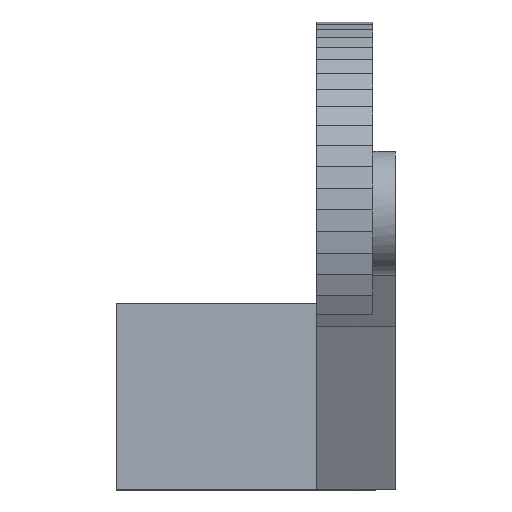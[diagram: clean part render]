
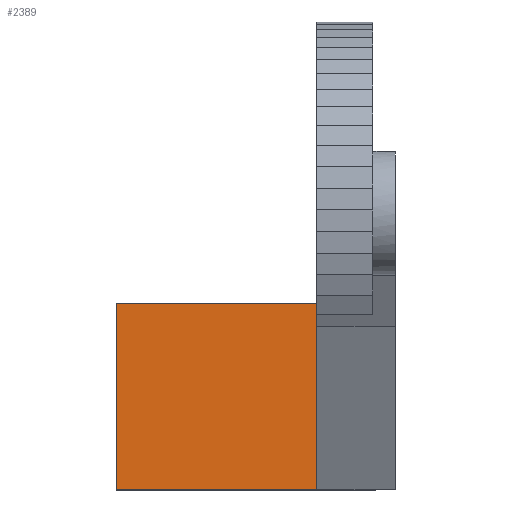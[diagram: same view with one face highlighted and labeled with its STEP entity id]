
A CAD part, top view. The second image highlights one B-rep face of the part: STEP entity #2389.
In plain terms, the highlighted planar face has unit normal (0, 0, 1).
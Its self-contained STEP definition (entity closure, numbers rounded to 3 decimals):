
#104 = PLANE('',#105);
#105 = AXIS2_PLACEMENT_3D('',#106,#107,#108);
#106 = CARTESIAN_POINT('',(6.5,0.,0.));
#107 = DIRECTION('',(1.,0.,0.));
#108 = DIRECTION('',(-0.,0.,1.));
#318 = PLANE('',#319);
#319 = AXIS2_PLACEMENT_3D('',#320,#321,#322);
#320 = CARTESIAN_POINT('',(6.5,-49.,-34.));
#321 = DIRECTION('',(0.,-1.,0.));
#322 = DIRECTION('',(0.,0.,1.));
#543 = VERTEX_POINT('',#544);
#544 = CARTESIAN_POINT('',(6.5,-49.,-30.));
#565 = EDGE_CURVE('',#566,#543,#568,.T.);
#566 = VERTEX_POINT('',#567);
#567 = CARTESIAN_POINT('',(6.5,-16.,-30.));
#568 = SURFACE_CURVE('',#569,(#573,#579),.PCURVE_S1.);
#569 = LINE('',#570,#571);
#570 = CARTESIAN_POINT('',(6.5,-24.5,-30.));
#571 = VECTOR('',#572,1.);
#572 = DIRECTION('',(0.,-1.,0.));
#573 = PCURVE('',#104,#574);
#574 = DEFINITIONAL_REPRESENTATION('',(#575),#578);
#575 = B_SPLINE_CURVE_WITH_KNOTS('',1,(#576,#577),.UNSPECIFIED.,.F.,.F.,
  (2,2),(-8.5,24.5),.PIECEWISE_BEZIER_KNOTS.);
#576 = CARTESIAN_POINT('',(-30.,16.));
#577 = CARTESIAN_POINT('',(-30.,49.));
#578 = ( GEOMETRIC_REPRESENTATION_CONTEXT(2) 
PARAMETRIC_REPRESENTATION_CONTEXT() REPRESENTATION_CONTEXT('2D SPACE',''
  ) );
#579 = PCURVE('',#580,#585);
#580 = PLANE('',#581);
#581 = AXIS2_PLACEMENT_3D('',#582,#583,#584);
#582 = CARTESIAN_POINT('',(-29.,-49.,-30.));
#583 = DIRECTION('',(0.,0.,1.));
#584 = DIRECTION('',(1.,0.,0.));
#585 = DEFINITIONAL_REPRESENTATION('',(#586),#589);
#586 = B_SPLINE_CURVE_WITH_KNOTS('',1,(#587,#588),.UNSPECIFIED.,.F.,.F.,
  (2,2),(-8.5,24.5),.PIECEWISE_BEZIER_KNOTS.);
#587 = CARTESIAN_POINT('',(35.5,33.));
#588 = CARTESIAN_POINT('',(35.5,0.));
#589 = ( GEOMETRIC_REPRESENTATION_CONTEXT(2) 
PARAMETRIC_REPRESENTATION_CONTEXT() REPRESENTATION_CONTEXT('2D SPACE',''
  ) );
#606 = PLANE('',#607);
#607 = AXIS2_PLACEMENT_3D('',#608,#609,#610);
#608 = CARTESIAN_POINT('',(-29.,-16.,-58.));
#609 = DIRECTION('',(0.,1.,0.));
#610 = DIRECTION('',(0.,0.,1.));
#2071 = EDGE_CURVE('',#2072,#543,#2074,.T.);
#2072 = VERTEX_POINT('',#2073);
#2073 = CARTESIAN_POINT('',(-29.,-49.,-30.));
#2074 = SURFACE_CURVE('',#2075,(#2079,#2086),.PCURVE_S1.);
#2075 = LINE('',#2076,#2077);
#2076 = CARTESIAN_POINT('',(-29.,-49.,-30.));
#2077 = VECTOR('',#2078,1.);
#2078 = DIRECTION('',(1.,0.,0.));
#2079 = PCURVE('',#318,#2080);
#2080 = DEFINITIONAL_REPRESENTATION('',(#2081),#2085);
#2081 = LINE('',#2082,#2083);
#2082 = CARTESIAN_POINT('',(4.,35.5));
#2083 = VECTOR('',#2084,1.);
#2084 = DIRECTION('',(0.,-1.));
#2085 = ( GEOMETRIC_REPRESENTATION_CONTEXT(2) 
PARAMETRIC_REPRESENTATION_CONTEXT() REPRESENTATION_CONTEXT('2D SPACE',''
  ) );
#2086 = PCURVE('',#580,#2087);
#2087 = DEFINITIONAL_REPRESENTATION('',(#2088),#2092);
#2088 = LINE('',#2089,#2090);
#2089 = CARTESIAN_POINT('',(0.,0.));
#2090 = VECTOR('',#2091,1.);
#2091 = DIRECTION('',(1.,0.));
#2092 = ( GEOMETRIC_REPRESENTATION_CONTEXT(2) 
PARAMETRIC_REPRESENTATION_CONTEXT() REPRESENTATION_CONTEXT('2D SPACE',''
  ) );
#2110 = PLANE('',#2111);
#2111 = AXIS2_PLACEMENT_3D('',#2112,#2113,#2114);
#2112 = CARTESIAN_POINT('',(-29.,-49.,-58.));
#2113 = DIRECTION('',(1.,0.,0.));
#2114 = DIRECTION('',(0.,0.,1.));
#2389 = ADVANCED_FACE('',(#2390),#580,.T.);
#2390 = FACE_BOUND('',#2391,.T.);
#2391 = EDGE_LOOP('',(#2392,#2415,#2436,#2437));
#2392 = ORIENTED_EDGE('',*,*,#2393,.F.);
#2393 = EDGE_CURVE('',#2394,#566,#2396,.T.);
#2394 = VERTEX_POINT('',#2395);
#2395 = CARTESIAN_POINT('',(-29.,-16.,-30.));
#2396 = SURFACE_CURVE('',#2397,(#2401,#2408),.PCURVE_S1.);
#2397 = LINE('',#2398,#2399);
#2398 = CARTESIAN_POINT('',(-29.,-16.,-30.));
#2399 = VECTOR('',#2400,1.);
#2400 = DIRECTION('',(1.,0.,0.));
#2401 = PCURVE('',#580,#2402);
#2402 = DEFINITIONAL_REPRESENTATION('',(#2403),#2407);
#2403 = LINE('',#2404,#2405);
#2404 = CARTESIAN_POINT('',(0.,33.));
#2405 = VECTOR('',#2406,1.);
#2406 = DIRECTION('',(1.,0.));
#2407 = ( GEOMETRIC_REPRESENTATION_CONTEXT(2) 
PARAMETRIC_REPRESENTATION_CONTEXT() REPRESENTATION_CONTEXT('2D SPACE',''
  ) );
#2408 = PCURVE('',#606,#2409);
#2409 = DEFINITIONAL_REPRESENTATION('',(#2410),#2414);
#2410 = LINE('',#2411,#2412);
#2411 = CARTESIAN_POINT('',(28.,0.));
#2412 = VECTOR('',#2413,1.);
#2413 = DIRECTION('',(0.,1.));
#2414 = ( GEOMETRIC_REPRESENTATION_CONTEXT(2) 
PARAMETRIC_REPRESENTATION_CONTEXT() REPRESENTATION_CONTEXT('2D SPACE',''
  ) );
#2415 = ORIENTED_EDGE('',*,*,#2416,.F.);
#2416 = EDGE_CURVE('',#2072,#2394,#2417,.T.);
#2417 = SURFACE_CURVE('',#2418,(#2422,#2429),.PCURVE_S1.);
#2418 = LINE('',#2419,#2420);
#2419 = CARTESIAN_POINT('',(-29.,-49.,-30.));
#2420 = VECTOR('',#2421,1.);
#2421 = DIRECTION('',(0.,1.,0.));
#2422 = PCURVE('',#580,#2423);
#2423 = DEFINITIONAL_REPRESENTATION('',(#2424),#2428);
#2424 = LINE('',#2425,#2426);
#2425 = CARTESIAN_POINT('',(0.,0.));
#2426 = VECTOR('',#2427,1.);
#2427 = DIRECTION('',(0.,1.));
#2428 = ( GEOMETRIC_REPRESENTATION_CONTEXT(2) 
PARAMETRIC_REPRESENTATION_CONTEXT() REPRESENTATION_CONTEXT('2D SPACE',''
  ) );
#2429 = PCURVE('',#2110,#2430);
#2430 = DEFINITIONAL_REPRESENTATION('',(#2431),#2435);
#2431 = LINE('',#2432,#2433);
#2432 = CARTESIAN_POINT('',(28.,0.));
#2433 = VECTOR('',#2434,1.);
#2434 = DIRECTION('',(0.,-1.));
#2435 = ( GEOMETRIC_REPRESENTATION_CONTEXT(2) 
PARAMETRIC_REPRESENTATION_CONTEXT() REPRESENTATION_CONTEXT('2D SPACE',''
  ) );
#2436 = ORIENTED_EDGE('',*,*,#2071,.T.);
#2437 = ORIENTED_EDGE('',*,*,#565,.F.);
